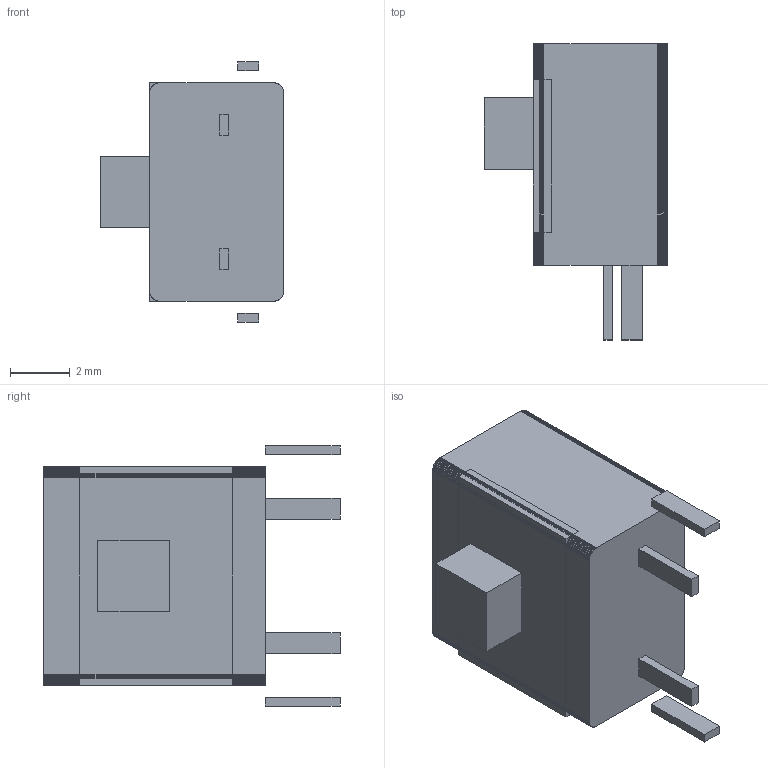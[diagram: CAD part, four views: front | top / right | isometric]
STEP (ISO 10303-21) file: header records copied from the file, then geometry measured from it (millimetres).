
FILE_DESCRIPTION(('Open CASCADE Model'),'2;1');
FILE_NAME('REF_sw_B3F-3150_ptt_upper','2026-09-06T11:35:13',('Author'),( 'Open CASCADE'),'Open CASCADE STEP processor 7.8','build123d', 'Unknown');
FILE_SCHEMA(('AUTOMOTIVE_DESIGN { 1 0 10303 214 1 1 1 1 }'));
Length unit declared in the file: millimetre
Products named in the file (1): REF_sw_B3F-3150_ptt_upper
Bounding box: 6.15 x 9.9 x 8.7 mm (x, y, z)
Volume: 276.3 mm3; surface area: 374.1 mm2
Topology: 7 solids, 7 shells, 126 faces, 336 edges, 224 vertices
Faces by surface type: plane 126
Entity records: 8206 total; most frequent: CARTESIAN_POINT 1359, DIRECTION 1262, LINE 1008, VECTOR 1008, ORIENTED_EDGE 672, PCURVE 672, DEFINITIONAL_REPRESENTATION 672, EDGE_CURVE 336
